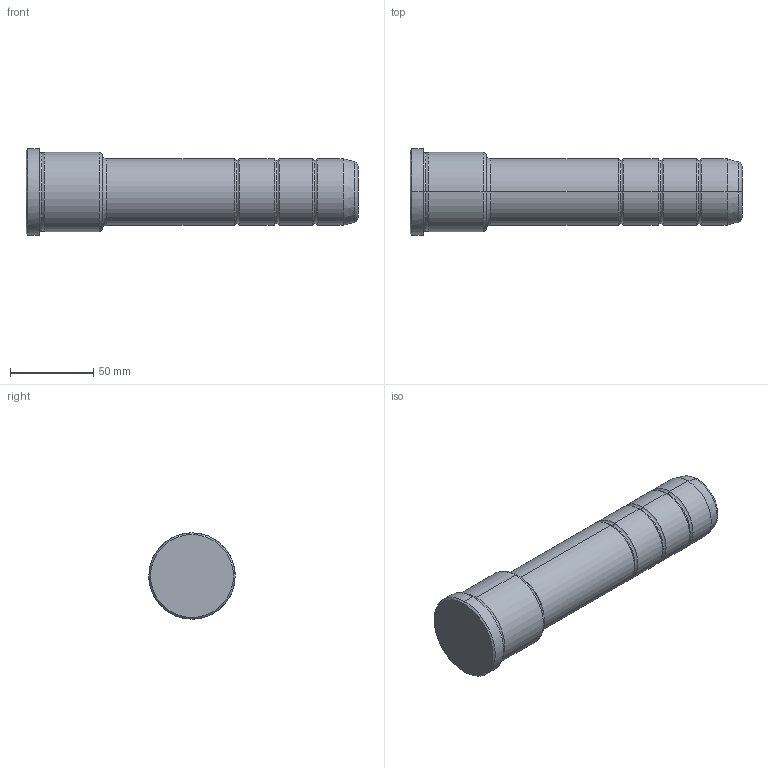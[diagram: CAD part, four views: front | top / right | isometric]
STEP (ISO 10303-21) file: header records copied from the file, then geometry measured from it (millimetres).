
FILE_DESCRIPTION(('CATIA V5 STEP Exchange'),'2;1');
FILE_NAME('C:\Users\Utente\Desktop\IO LAVORO\3D X SITO CF\X SITO\PLASTICA\351\351-40X46X200.stp','2021-10-28T18:34:51+00:00',('none'),('none'),'CATIA Version 5 Release 20 GA (IN-10)','CATIA V5 STEP AP203','none');
FILE_SCHEMA(('CONFIG_CONTROL_DESIGN'));
Length unit declared in the file: millimetre
Products named in the file (1): 351-40X46X200
Bounding box: 200 x 52 x 52 mm (x, y, z)
Volume: 276824.4 mm3; surface area: 30172.4 mm2
Topology: 1 solids, 1 shells, 42 faces, 118 edges, 80 vertices
Faces by surface type: torus 20, cylinder 12, cone 6, plane 4
Entity records: 1472 total; most frequent: CARTESIAN_POINT 353, ORIENTED_EDGE 236, DIRECTION 194, AXIS2_PLACEMENT_3D 135, EDGE_CURVE 118, CIRCLE 92, VERTEX_POINT 80, EDGE_LOOP 44
